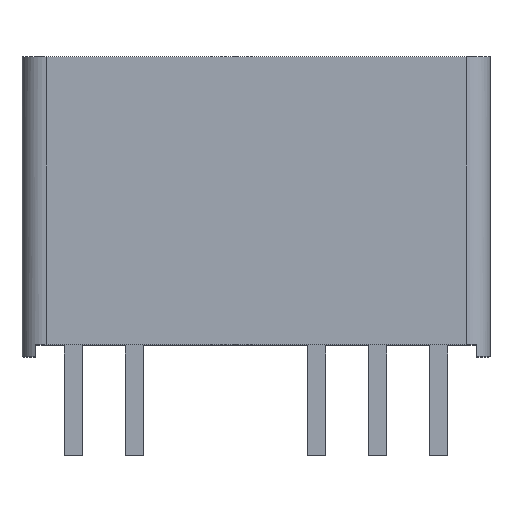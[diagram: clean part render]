
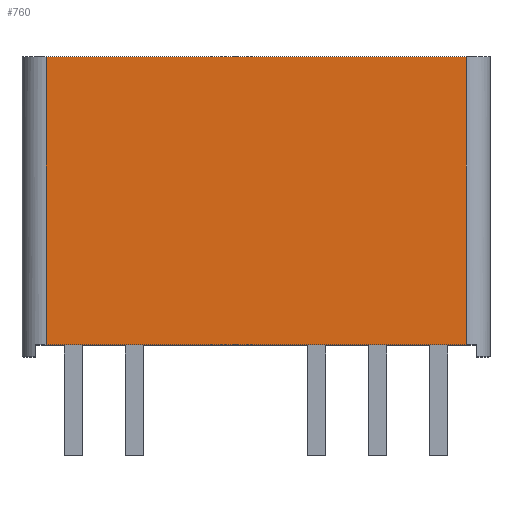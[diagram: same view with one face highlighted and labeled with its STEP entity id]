
A CAD part, top view. The second image highlights one B-rep face of the part: STEP entity #760.
In plain terms, the highlighted planar face has unit normal (0, 0, 1).
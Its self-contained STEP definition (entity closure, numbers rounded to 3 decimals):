
#40=FACE_OUTER_BOUND('',#86,.T.);
#86=EDGE_LOOP('',(#563,#564,#565,#566));
#123=LINE('',#1094,#213);
#145=LINE('',#1162,#235);
#147=LINE('',#1166,#237);
#149=LINE('',#1169,#239);
#213=VECTOR('',#876,10.);
#235=VECTOR('',#940,10.);
#237=VECTOR('',#946,10.);
#239=VECTOR('',#950,10.);
#322=VERTEX_POINT('',#1091);
#323=VERTEX_POINT('',#1093);
#347=VERTEX_POINT('',#1159);
#348=VERTEX_POINT('',#1161);
#394=EDGE_CURVE('',#323,#322,#123,.T.);
#428=EDGE_CURVE('',#348,#347,#145,.T.);
#431=EDGE_CURVE('',#348,#322,#147,.T.);
#433=EDGE_CURVE('',#323,#347,#149,.T.);
#563=ORIENTED_EDGE('',*,*,#431,.F.);
#564=ORIENTED_EDGE('',*,*,#428,.T.);
#565=ORIENTED_EDGE('',*,*,#433,.F.);
#566=ORIENTED_EDGE('',*,*,#394,.T.);
#715=PLANE('',#829);
#760=ADVANCED_FACE('',(#40),#715,.T.);
#829=AXIS2_PLACEMENT_3D('',#1168,#948,#949);
#876=DIRECTION('',(1.,0.,0.));
#940=DIRECTION('',(-1.,0.,0.));
#946=DIRECTION('',(0.,-1.,0.));
#948=DIRECTION('center_axis',(0.,0.,1.));
#949=DIRECTION('ref_axis',(1.,0.,0.));
#950=DIRECTION('',(0.,1.,0.));
#1091=CARTESIAN_POINT('',(8.75,0.5,4.9));
#1093=CARTESIAN_POINT('',(-8.75,0.5,4.9));
#1094=CARTESIAN_POINT('',(-9.2,0.5,4.9));
#1159=CARTESIAN_POINT('',(-8.75,12.5,4.9));
#1161=CARTESIAN_POINT('',(8.75,12.5,4.9));
#1162=CARTESIAN_POINT('',(9.75,12.5,4.9));
#1166=CARTESIAN_POINT('',(8.75,3.15,4.9));
#1168=CARTESIAN_POINT('Origin',(0.,6.299,4.9));
#1169=CARTESIAN_POINT('',(-8.75,9.4,4.9));
